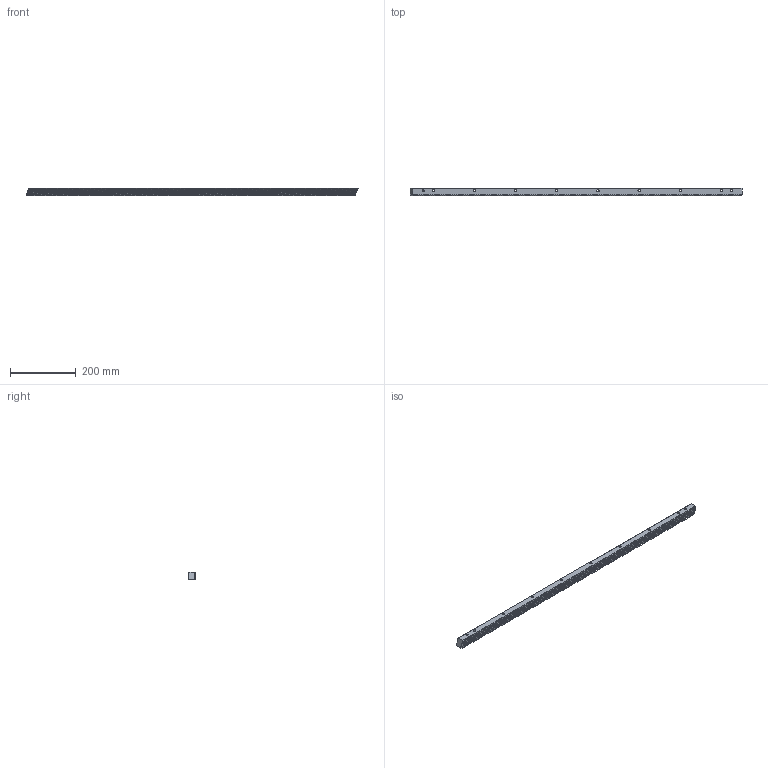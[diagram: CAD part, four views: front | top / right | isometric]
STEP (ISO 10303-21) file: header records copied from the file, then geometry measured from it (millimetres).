
FILE_DESCRIPTION(/* description */ (''),/* implementation_level */ '2;1');
FILE_NAME(/* name */ 'BL-1HR26R020100H.ipt',/* time_stamp */ '2019-06-18T08:36:31+02:00',/* author */ ('VĂ©gh MĂˇtĂ©'),/* organization */ ('Bearing Kft'),/* preprocessor_version */ 'ST-DEVELOPER v16.7',/* originating_system */ 'DEX',/* authorisation */ $);
FILE_SCHEMA (('AUTOMOTIVE_DESIGN {1 0 10303 214 3 1 1}'));
Length unit declared in the file: millimetre
Products named in the file (1): BL-1HR26R020100H.ipt
Bounding box: 1008.51 x 24 x 24 mm (x, y, z)
Volume: 510794.4 mm3; surface area: 120625.2 mm2
Topology: 1 solids, 1 shells, 1271 faces, 3612 edges, 2408 vertices
Faces by surface type: plane 872, bspline 379, cylinder 20
Full cylindrical faces by diameter (mm): 5.7 x2, 7 x8, 11 x8
Entity records: 55689 total; most frequent: CARTESIAN_POINT 14539, ORIENTED_EDGE 7168, DIRECTION 5852, EDGE_CURVE 3584, LINE 2786, VECTOR 2786, VERTEX_POINT 2408, AXIS2_PLACEMENT_3D 1533
